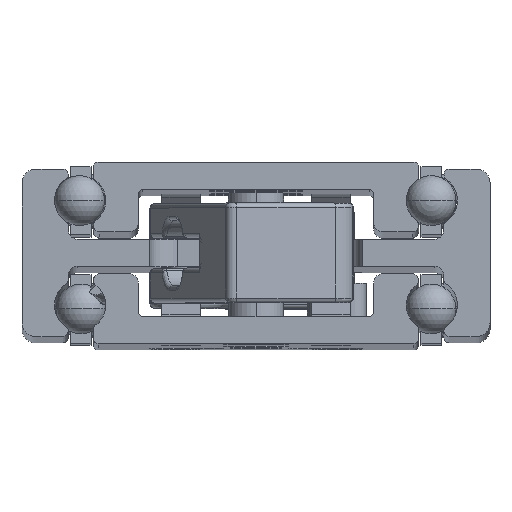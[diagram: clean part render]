
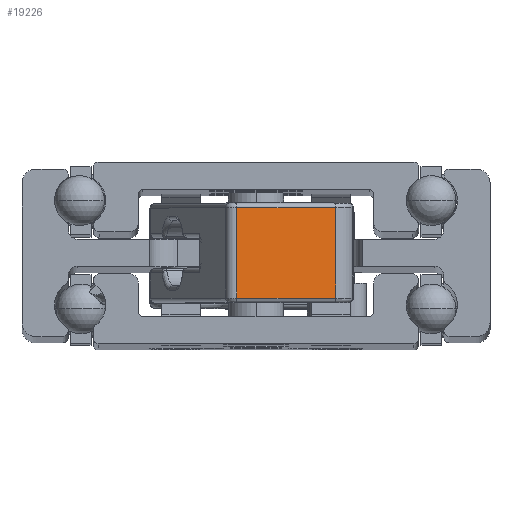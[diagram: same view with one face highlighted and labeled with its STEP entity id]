
A CAD part, top view. The second image highlights one B-rep face of the part: STEP entity #19226.
In plain terms, the highlighted planar face has unit normal (0.225, 0, 0.974) as drawn and (-1, 0, 0) by its records, which use the part's own axes.
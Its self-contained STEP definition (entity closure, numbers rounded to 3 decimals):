
#895 = VECTOR ( 'NONE', #21016, 1000. ) ;
#1247 = ORIENTED_EDGE ( 'NONE', *, *, #3935, .T. ) ;
#3935 = EDGE_CURVE ( 'NONE', #16828, #14365, #25911, .T. ) ;
#4800 = EDGE_CURVE ( 'NONE', #16107, #16828, #17947, .T. ) ;
#5200 = LINE ( 'NONE', #16655, #895 ) ;
#5617 = VECTOR ( 'NONE', #22441, 1000. ) ;
#6205 = DIRECTION ( 'NONE',  ( 0., 1., 0. ) ) ;
#7547 = CARTESIAN_POINT ( 'NONE',  ( -37., 8., -4.9 ) ) ;
#7845 = CARTESIAN_POINT ( 'NONE',  ( -37., 8., 4.9 ) ) ;
#7999 = VECTOR ( 'NONE', #6205, 1000. ) ;
#9220 = CARTESIAN_POINT ( 'NONE',  ( -37., -4., -4.9 ) ) ;
#11294 = EDGE_LOOP ( 'NONE', ( #22439, #1247, #26725, #16903 ) ) ;
#11541 = DIRECTION ( 'NONE',  ( 0., -1., 0. ) ) ;
#12266 = PLANE ( 'NONE',  #19019 ) ;
#12335 = CARTESIAN_POINT ( 'NONE',  ( -37., -3., 4.9 ) ) ;
#14365 = VERTEX_POINT ( 'NONE', #7845 ) ;
#16107 = VERTEX_POINT ( 'NONE', #21825 ) ;
#16655 = CARTESIAN_POINT ( 'NONE',  ( -37., 8., 5.4 ) ) ;
#16828 = VERTEX_POINT ( 'NONE', #12335 ) ;
#16903 = ORIENTED_EDGE ( 'NONE', *, *, #18847, .T. ) ;
#16959 = CARTESIAN_POINT ( 'NONE',  ( -37., 8., 4.9 ) ) ;
#17947 = LINE ( 'NONE', #26642, #5617 ) ;
#18643 = DIRECTION ( 'NONE',  ( 1., 0., 0. ) ) ;
#18783 = FACE_OUTER_BOUND ( 'NONE', #11294, .T. ) ;
#18847 = EDGE_CURVE ( 'NONE', #27746, #16107, #24739, .T. ) ;
#19019 = AXIS2_PLACEMENT_3D ( 'NONE', #21241, #18643, #23108 ) ;
#19226 = ADVANCED_FACE ( 'NONE', ( #18783 ), #12266, .F. ) ;
#21016 = DIRECTION ( 'NONE',  ( 0., 0., -1. ) ) ;
#21241 = CARTESIAN_POINT ( 'NONE',  ( -37., -4., 5.4 ) ) ;
#21825 = CARTESIAN_POINT ( 'NONE',  ( -37., -3., -4.9 ) ) ;
#22439 = ORIENTED_EDGE ( 'NONE', *, *, #4800, .T. ) ;
#22441 = DIRECTION ( 'NONE',  ( 0., 0., 1. ) ) ;
#23108 = DIRECTION ( 'NONE',  ( 0., 1., 0. ) ) ;
#23802 = EDGE_CURVE ( 'NONE', #14365, #27746, #5200, .T. ) ;
#24739 = LINE ( 'NONE', #9220, #27787 ) ;
#25911 = LINE ( 'NONE', #16959, #7999 ) ;
#26642 = CARTESIAN_POINT ( 'NONE',  ( -37., -3., 5.4 ) ) ;
#26725 = ORIENTED_EDGE ( 'NONE', *, *, #23802, .T. ) ;
#27746 = VERTEX_POINT ( 'NONE', #7547 ) ;
#27787 = VECTOR ( 'NONE', #11541, 1000. ) ;
